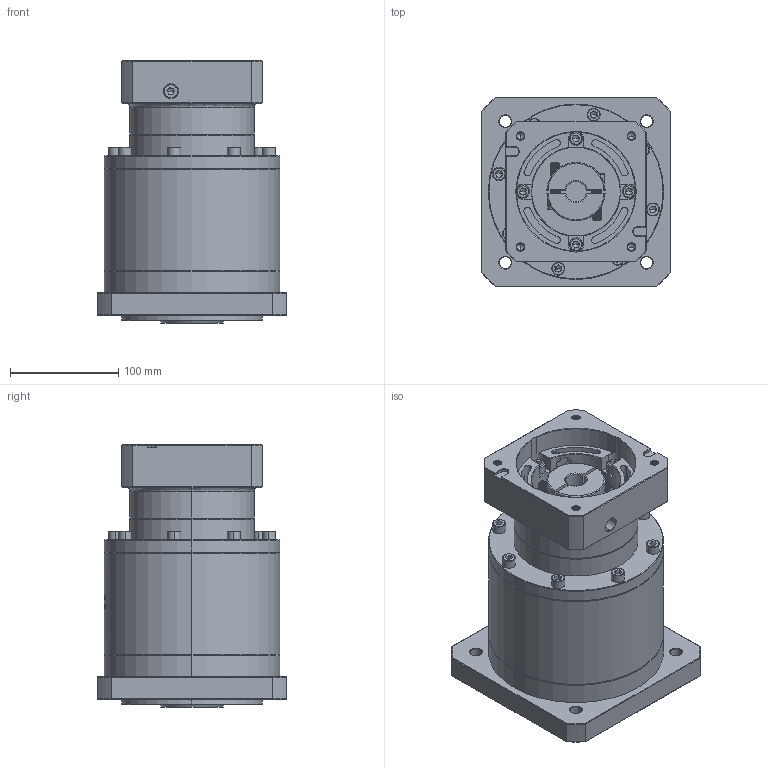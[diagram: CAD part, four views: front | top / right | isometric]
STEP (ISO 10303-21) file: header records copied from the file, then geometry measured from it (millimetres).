
FILE_DESCRIPTION (( 'STEP AP214' ), '1' );
FILE_NAME ('ZF160-K35-L3-19-110-145-M8.step', '2023-03-22T03:59:39', ( '' ), ( '' ), 'SwSTEP 2.0', 'SolidWorks 2016', '' );
FILE_SCHEMA (( 'AUTOMOTIVE_DESIGN' ));
Length unit declared in the file: millimetre
Products named in the file (1): ZF160-K35-L3-19-110-145-M8
Bounding box: 175 x 175 x 242.2 mm (x, y, z)
Volume: 4047156.2 mm3; surface area: 291750.1 mm2
Topology: 6 solids, 6 shells, 1855 faces, 4714 edges, 2978 vertices
Faces by surface type: plane 765, cylinder 474, cone 354, bspline 207, torus 55
Entity records: 96047 total; most frequent: CARTESIAN_POINT 32996, ORIENTED_EDGE 9324, DIRECTION 8236, EDGE_CURVE 4662, VERTEX_POINT 2978, AXIS2_PLACEMENT_3D 2859, VECTOR 2518, LINE 2518
